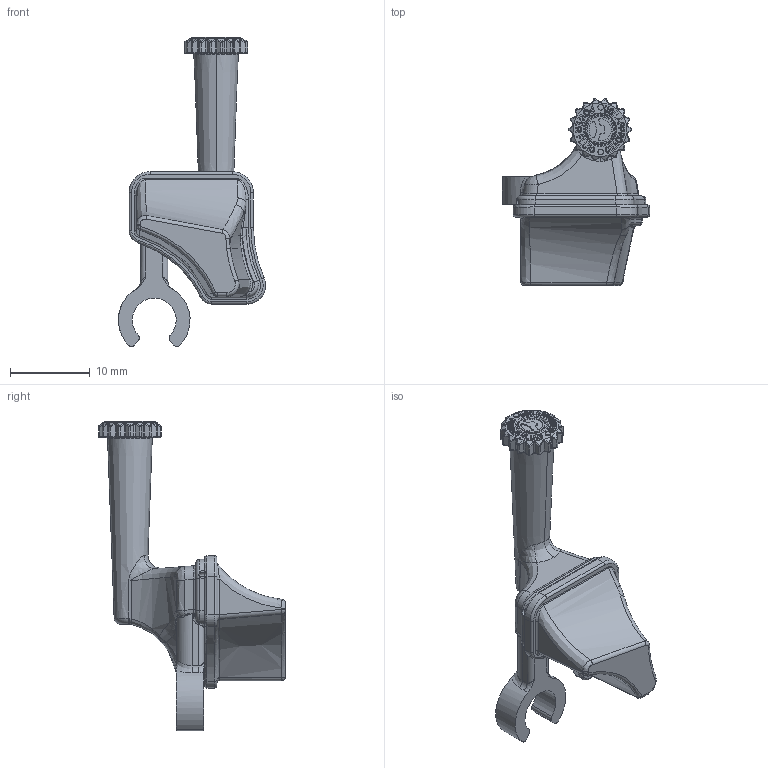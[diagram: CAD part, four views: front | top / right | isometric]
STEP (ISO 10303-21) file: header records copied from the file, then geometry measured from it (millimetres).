
FILE_DESCRIPTION((''),'2;1');
FILE_NAME('09-0001_ASM_ASM','2024-04-30T01:07:54',('Administrator'),(''),'CREO PARAMETRIC BY PTC INC, 2019224','CREO PARAMETRIC BY PTC INC, 2019224','');
FILE_SCHEMA(('CONFIG_CONTROL_DESIGN'));
Length unit declared in the file: millimetre
Products named in the file (4): 09-0002_26; 09--B0001_55; 09-0001_ASM_3_ASM; 09-0001_ASM_ASM
Assembly tree (3 placements, depth 3):
  09-0001_ASM_ASM
    09-0001_ASM_3_ASM
      09-0002_26
      09--B0001_55
Bounding box: 18.47 x 23.42 x 38.78 mm (x, y, z)
Volume: 1343.4 mm3; surface area: 2706.4 mm2
Topology: 2 solids, 3 shells, 964 faces, 2449 edges, 1486 vertices
Faces by surface type: plane 296, extrusion 205, bspline 175, cylinder 172, torus 53, sphere 45, cone 18
Entity records: 38707 total; most frequent: CARTESIAN_POINT 17904, ORIENTED_EDGE 4806, DIRECTION 3328, EDGE_CURVE 2403, VERTEX_POINT 1486, VECTOR 1260, B_SPLINE_CURVE_WITH_KNOTS 1112, LINE 1055
